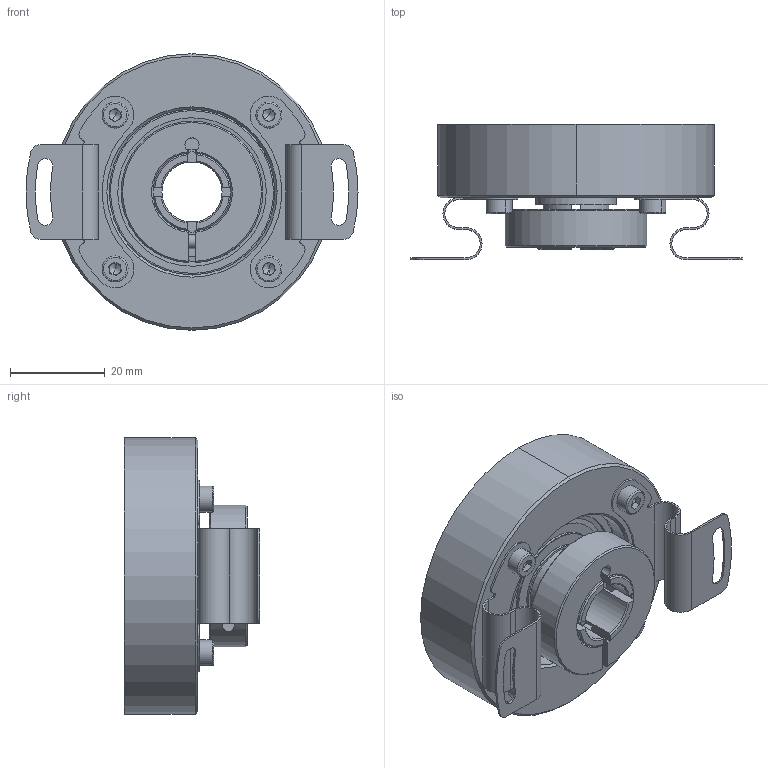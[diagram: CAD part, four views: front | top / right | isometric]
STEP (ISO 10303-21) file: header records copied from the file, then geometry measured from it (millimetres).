
FILE_DESCRIPTION (( 'STEP AP214' ), '1' );
FILE_NAME ('drawing-ucd-hts0-q5b-n.STEP', '2017-02-21T15:29:15', ( '' ), ( '' ), 'SwSTEP 2.0', 'SolidWorks 2015', '' );
FILE_SCHEMA (( 'AUTOMOTIVE_DESIGN' ));
Length unit declared in the file: millimetre
Products named in the file (1): drawing-ucd-hts0-q5b-n
Bounding box: 70.2 x 28.6 x 58.5 mm (x, y, z)
Volume: 39011.2 mm3; surface area: 26121.8 mm2
Topology: 27 solids, 27 shells, 483 faces, 1130 edges, 659 vertices
Faces by surface type: cylinder 157, plane 152, cone 90, bspline 64, torus 20
Entity records: 20334 total; most frequent: CARTESIAN_POINT 3971, DIRECTION 2363, ORIENTED_EDGE 2132, EDGE_CURVE 1066, AXIS2_PLACEMENT_3D 951, VERTEX_POINT 659, EDGE_LOOP 539, CIRCLE 531
